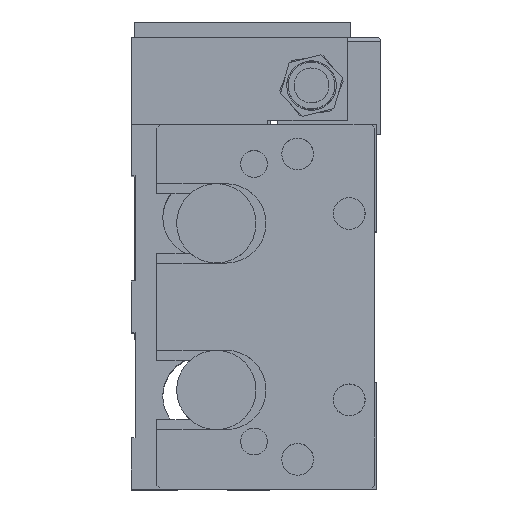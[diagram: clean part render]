
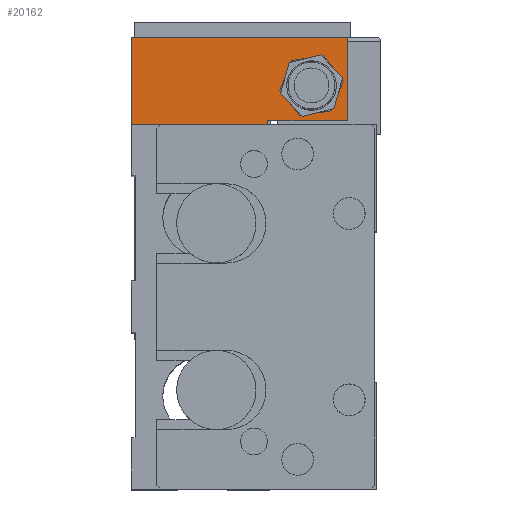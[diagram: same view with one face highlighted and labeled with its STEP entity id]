
A CAD part, top view. The second image highlights one B-rep face of the part: STEP entity #20162.
In plain terms, the highlighted planar face has unit normal (0, 0, 1) as drawn and (0, 0, -1) by its records, which use the part's own axes.
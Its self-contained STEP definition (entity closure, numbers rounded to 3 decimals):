
#5878 = DIRECTION ( 'NONE',  ( 1., 0., 0. ) ) ;
#5879 = DIRECTION ( 'NONE',  ( 0., 0., 1. ) ) ;
#5880 = CARTESIAN_POINT ( 'NONE',  ( 12.25, 45.5, 0. ) ) ;
#5881 = AXIS2_PLACEMENT_3D ( 'NONE', #5880, #5879, #5878 ) ;
#5885 = CIRCLE ( 'NONE', #5881, 6.25 ) ;
#6667 = CARTESIAN_POINT ( 'NONE',  ( 3.5, 54.5, 0. ) ) ;
#6952 = CARTESIAN_POINT ( 'NONE',  ( 0., 34.5, 0. ) ) ;
#6966 = CARTESIAN_POINT ( 'NONE',  ( 24.5, 54.5, 0. ) ) ;
#6987 = LINE ( 'NONE', #7058, #7057 ) ;
#7056 = DIRECTION ( 'NONE',  ( -1., 0., 0. ) ) ;
#7057 = VECTOR ( 'NONE', #7056, 1000. ) ;
#7058 = CARTESIAN_POINT ( 'NONE',  ( 0., 54.5, 0. ) ) ;
#7238 = CARTESIAN_POINT ( 'NONE',  ( 6., 45.5, 0. ) ) ;
#7260 = CARTESIAN_POINT ( 'NONE',  ( 18.5, 45.5, 0. ) ) ;
#7773 = DIRECTION ( 'NONE',  ( 0., -1., 0. ) ) ;
#7774 = VECTOR ( 'NONE', #7773, 1000. ) ;
#7790 = CARTESIAN_POINT ( 'NONE',  ( 0., 0., 0. ) ) ;
#7791 = LINE ( 'NONE', #7790, #7774 ) ;
#8051 = CARTESIAN_POINT ( 'NONE',  ( 0., 0., 0. ) ) ;
#8235 = CARTESIAN_POINT ( 'NONE',  ( 24.5, 0., 0. ) ) ;
#8421 = LINE ( 'NONE', #8474, #8471 ) ;
#8470 = DIRECTION ( 'NONE',  ( 1., 0., 0. ) ) ;
#8471 = VECTOR ( 'NONE', #8470, 1000. ) ;
#8474 = CARTESIAN_POINT ( 'NONE',  ( 0., 0., 0. ) ) ;
#9940 = DIRECTION ( 'NONE',  ( 0., 1., 0. ) ) ;
#9942 = VECTOR ( 'NONE', #9940, 1000. ) ;
#9946 = CARTESIAN_POINT ( 'NONE',  ( 24.5, 0., 0. ) ) ;
#9947 = LINE ( 'NONE', #9946, #9942 ) ;
#10284 = CARTESIAN_POINT ( 'NONE',  ( 3.5, 34.5, 0. ) ) ;
#10285 = LINE ( 'NONE', #10284, #10307 ) ;
#10307 = VECTOR ( 'NONE', #10342, 1000. ) ;
#10342 = DIRECTION ( 'NONE',  ( -1., 0., 0. ) ) ;
#10453 = CARTESIAN_POINT ( 'NONE',  ( 3.5, 34.5, 0. ) ) ;
#10469 = FACE_BOUND ( 'NONE', #33292, .T. ) ;
#10470 = AXIS2_PLACEMENT_3D ( 'NONE', #10476, #10531, #10530 ) ;
#10476 = CARTESIAN_POINT ( 'NONE',  ( 0., 54.5, 0. ) ) ;
#10477 = PLANE ( 'NONE',  #10470 ) ;
#10483 = FACE_OUTER_BOUND ( 'NONE', #19941, .T. ) ;
#10486 = DIRECTION ( 'NONE',  ( 0., -1., 0. ) ) ;
#10487 = VECTOR ( 'NONE', #10486, 1000. ) ;
#10488 = CARTESIAN_POINT ( 'NONE',  ( 3.5, 54.5, 0. ) ) ;
#10489 = LINE ( 'NONE', #10488, #10487 ) ;
#10530 = DIRECTION ( 'NONE',  ( -1., 0., 0. ) ) ;
#10531 = DIRECTION ( 'NONE',  ( 0., 0., -1. ) ) ;
#10757 = CARTESIAN_POINT ( 'NONE',  ( 12.25, 45.5, 0. ) ) ;
#10765 = DIRECTION ( 'NONE',  ( 0., 0., 1. ) ) ;
#10805 = DIRECTION ( 'NONE',  ( 1., 0., 0. ) ) ;
#10806 = AXIS2_PLACEMENT_3D ( 'NONE', #10757, #10765, #10805 ) ;
#10807 = CIRCLE ( 'NONE', #10806, 6.25 ) ;
#15015 = ORIENTED_EDGE ( 'NONE', *, *, #18887, .F. ) ;
#17366 = EDGE_CURVE ( 'NONE', #18741, #18749, #5885, .T. ) ;
#18588 = VERTEX_POINT ( 'NONE', #6667 ) ;
#18682 = VERTEX_POINT ( 'NONE', #6952 ) ;
#18683 = VERTEX_POINT ( 'NONE', #6966 ) ;
#18704 = EDGE_CURVE ( 'NONE', #18683, #18588, #6987, .T. ) ;
#18741 = VERTEX_POINT ( 'NONE', #7238 ) ;
#18749 = VERTEX_POINT ( 'NONE', #7260 ) ;
#18887 = EDGE_CURVE ( 'NONE', #18682, #18949, #7791, .T. ) ;
#18949 = VERTEX_POINT ( 'NONE', #8051 ) ;
#19092 = VERTEX_POINT ( 'NONE', #8235 ) ;
#19178 = EDGE_CURVE ( 'NONE', #18949, #19092, #8421, .T. ) ;
#19644 = ORIENTED_EDGE ( 'NONE', *, *, #18704, .F. ) ;
#19712 = EDGE_CURVE ( 'NONE', #19092, #18683, #9947, .T. ) ;
#19941 = EDGE_LOOP ( 'NONE', ( #20014, #20173, #19644, #20114, #20115, #15015 ) ) ;
#20014 = ORIENTED_EDGE ( 'NONE', *, *, #20017, .F. ) ;
#20017 = EDGE_CURVE ( 'NONE', #20120, #18682, #10285, .T. ) ;
#20114 = ORIENTED_EDGE ( 'NONE', *, *, #19712, .F. ) ;
#20115 = ORIENTED_EDGE ( 'NONE', *, *, #19178, .F. ) ;
#20120 = VERTEX_POINT ( 'NONE', #10453 ) ;
#20144 = EDGE_CURVE ( 'NONE', #18588, #20120, #10489, .T. ) ;
#20156 = ORIENTED_EDGE ( 'NONE', *, *, #20355, .T. ) ;
#20162 = ADVANCED_FACE ( 'NONE', ( #10483, #10469 ), #10477, .T. ) ;
#20173 = ORIENTED_EDGE ( 'NONE', *, *, #20144, .F. ) ;
#20325 = ORIENTED_EDGE ( 'NONE', *, *, #17366, .T. ) ;
#20355 = EDGE_CURVE ( 'NONE', #18749, #18741, #10807, .T. ) ;
#33292 = EDGE_LOOP ( 'NONE', ( #20156, #20325 ) ) ;
